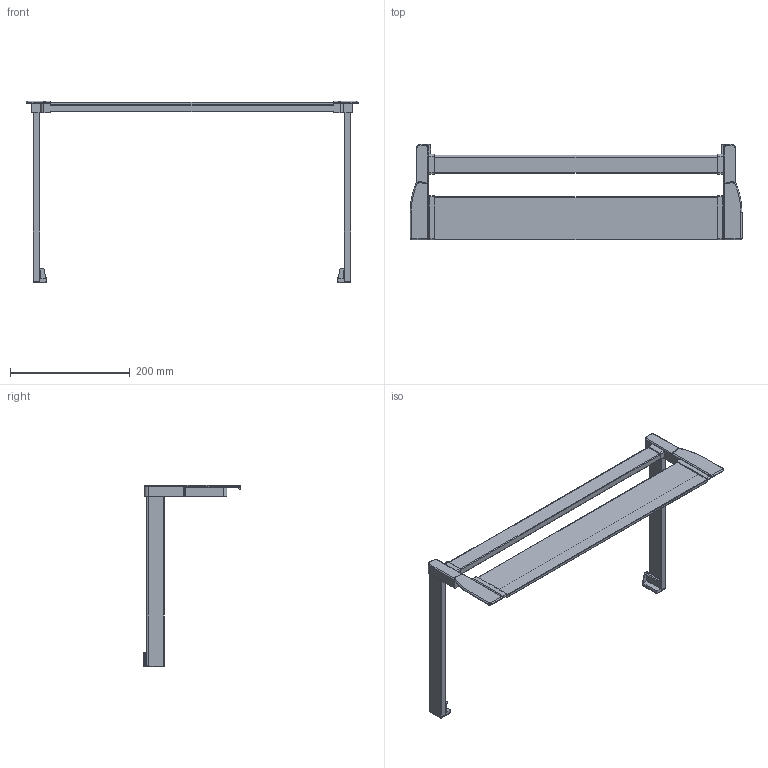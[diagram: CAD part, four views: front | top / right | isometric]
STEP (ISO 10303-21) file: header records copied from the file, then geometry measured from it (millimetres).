
FILE_DESCRIPTION (( 'STEP AP214' ), '1' );
FILE_NAME ('1_P620_NL 300_KAB 600_19er KS_.step', '2009-09-16T06:29:10', ( 'Waldinger Reinhard' ), ( 'Grass GmbH' ), 'SwSTEP 2.0', 'SolidWorks 2009', '' );
FILE_SCHEMA (( 'AUTOMOTIVE_DESIGN' ));
Length unit declared in the file: millimetre
Products named in the file (1): 1_P620_NL 300_KAB 600_19er KS_
Bounding box: 553.6 x 160.5 x 302.8 mm (x, y, z)
Volume: 850953.6 mm3; surface area: 201741.4 mm2
Topology: 1 solids, 1 shells, 220 faces, 578 edges, 364 vertices
Faces by surface type: plane 97, cylinder 91, torus 28, sphere 2, bspline 2
Entity records: 7004 total; most frequent: CARTESIAN_POINT 1345, DIRECTION 1198, ORIENTED_EDGE 1152, EDGE_CURVE 576, AXIS2_PLACEMENT_3D 433, VERTEX_POINT 364, LINE 332, VECTOR 332
